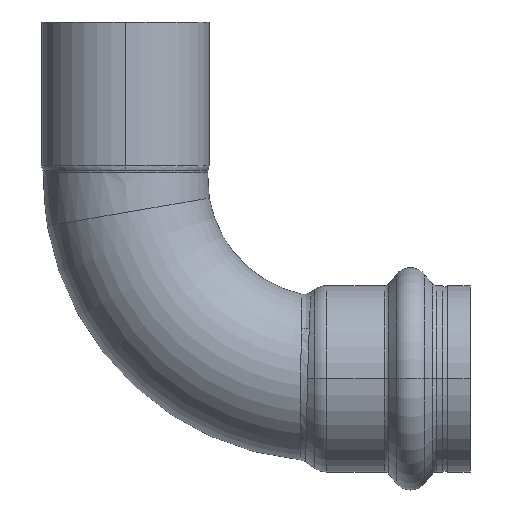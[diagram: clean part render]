
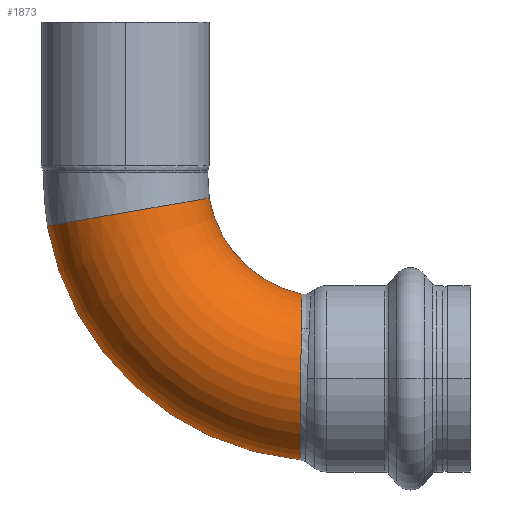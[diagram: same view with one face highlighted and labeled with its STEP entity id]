
A CAD part, top view. The second image highlights one B-rep face of the part: STEP entity #1873.
In plain terms, the highlighted toroidal (fillet/blend) face has major radius 33.6 mm and minor radius 13.75 mm.
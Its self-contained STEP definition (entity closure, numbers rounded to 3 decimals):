
#4 = CARTESIAN_POINT ( 'NONE',  ( 29.282, -6.297, 12.105 ) ) ;
#18 = CARTESIAN_POINT ( 'NONE',  ( 29.378, 3.799, 13.311 ) ) ;
#137 = ORIENTED_EDGE ( 'NONE', *, *, #1264, .F. ) ;
#292 = CARTESIAN_POINT ( 'NONE',  ( 29.241, -11.181, 7.723 ) ) ;
#304 = CARTESIAN_POINT ( 'NONE',  ( 29.305, -3.699, 13.232 ) ) ;
#321 = CARTESIAN_POINT ( 'NONE',  ( 29.396, 5.584, 12.715 ) ) ;
#357 = B_SPLINE_CURVE_WITH_KNOTS ( 'NONE', 3,
 ( #598, #2473, #883, #3077, #1191, #3311, #1489, #3550, #1781, #3800, #2144, #292, #2485, #613, #2823, #894, #3086, #1205, #3318, #1497, #3563, #1795, #4, #2160, #304, #2501, #622, #2836, #906, #3095, #1215, #3327, #1507, #3570, #1808, #18, #2170, #321, #2516, #633, #2845, #917, #3106, #1223 ),
 .UNSPECIFIED., .F., .F.,
 ( 4, 2, 2, 2, 2, 2, 2, 2, 2, 2, 2, 2, 2, 2, 2, 2, 2, 2, 2, 2, 2, 4 ),
 ( 0.01, 0.012, 0.014, 0.015, 0.015, 0.017, 0.019, 0.02, 0.021, 0.023, 0.024, 0.025, 0.029, 0.03, 0.031, 0.033, 0.034, 0.035, 0.036, 0.038, 0.039, 0.04 ),
 .UNSPECIFIED. ) ;
#432 = CARTESIAN_POINT ( 'NONE',  ( 33.6, 33.6, 0. ) ) ;
#491 = DIRECTION ( 'NONE',  ( -1., 0., 0. ) ) ;
#589 = ORIENTED_EDGE ( 'NONE', *, *, #2387, .F. ) ;
#598 = CARTESIAN_POINT ( 'NONE',  ( 29.223, -13.547, 0. ) ) ;
#610 = CARTESIAN_POINT ( 'NONE',  ( 29.425, 8.344, 11.182 ) ) ;
#613 = CARTESIAN_POINT ( 'NONE',  ( 29.249, -10.214, 8.966 ) ) ;
#622 = CARTESIAN_POINT ( 'NONE',  ( 29.323, -1.833, 13.594 ) ) ;
#633 = CARTESIAN_POINT ( 'NONE',  ( 29.411, 7.003, 12.025 ) ) ;
#724 = B_SPLINE_CURVE_WITH_KNOTS ( 'NONE', 3,
 ( #2339, #2270, #2483, #2556, #2564, #2572, #2582, #2621, #2659, #2752, #2885, #2891, #2896, #2910, #2932, #2940, #2992, #3023 ),
 .UNSPECIFIED., .F., .F.,
 ( 4, 2, 2, 2, 2, 2, 2, 2, 4 ),
 ( 0.04, 0.042, 0.044, 0.045, 0.046, 0.047, 0.05, 0.052, 0.053 ),
 .UNSPECIFIED. ) ;
#883 = CARTESIAN_POINT ( 'NONE',  ( 29.223, -13.503, 1.269 ) ) ;
#894 = CARTESIAN_POINT ( 'NONE',  ( 29.254, -9.567, 9.665 ) ) ;
#906 = CARTESIAN_POINT ( 'NONE',  ( 29.332, -0.892, 13.705 ) ) ;
#917 = CARTESIAN_POINT ( 'NONE',  ( 29.419, 7.822, 11.538 ) ) ;
#1092 = CIRCLE ( 'NONE', #2979, 19.85 ) ;
#1191 = CARTESIAN_POINT ( 'NONE',  ( 29.225, -13.2, 3.131 ) ) ;
#1205 = CARTESIAN_POINT ( 'NONE',  ( 29.262, -8.647, 10.526 ) ) ;
#1215 = CARTESIAN_POINT ( 'NONE',  ( 29.347, 0.677, 13.758 ) ) ;
#1223 = CARTESIAN_POINT ( 'NONE',  ( 29.425, 8.344, 11.182 ) ) ;
#1264 = EDGE_CURVE ( 'NONE', #1640, #2202, #3366, .T. ) ;
#1313 = CARTESIAN_POINT ( 'NONE',  ( 0.485, 27.911, 0. ) ) ;
#1418 = VERTEX_POINT ( 'NONE', #3694 ) ;
#1474 = CIRCLE ( 'NONE', #3511, 47.35 ) ;
#1489 = CARTESIAN_POINT ( 'NONE',  ( 29.228, -12.847, 4.337 ) ) ;
#1497 = CARTESIAN_POINT ( 'NONE',  ( 29.273, -7.384, 11.455 ) ) ;
#1507 = CARTESIAN_POINT ( 'NONE',  ( 29.359, 1.93, 13.655 ) ) ;
#1566 = DIRECTION ( 'NONE',  ( 0., 0., -1. ) ) ;
#1603 = DIRECTION ( 'NONE',  ( -0.986, -0.169, 0. ) ) ;
#1631 = VERTEX_POINT ( 'NONE', #610 ) ;
#1640 = VERTEX_POINT ( 'NONE', #3085 ) ;
#1645 = CARTESIAN_POINT ( 'NONE',  ( 29.48, 14.182, 0. ) ) ;
#1781 = CARTESIAN_POINT ( 'NONE',  ( 29.231, -12.515, 5.226 ) ) ;
#1795 = CARTESIAN_POINT ( 'NONE',  ( 29.28, -6.576, 11.951 ) ) ;
#1808 = CARTESIAN_POINT ( 'NONE',  ( 29.369, 2.871, 13.509 ) ) ;
#1869 = AXIS2_PLACEMENT_3D ( 'NONE', #1313, #3410, #1603 ) ;
#1873 = ADVANCED_FACE ( 'NONE', ( #3401 ), #1909, .T. ) ;
#1909 = TOROIDAL_SURFACE ( 'NONE', #3404, 33.6, 13.75 ) ;
#1938 = EDGE_CURVE ( 'NONE', #1631, #2494, #724, .T. ) ;
#2144 = CARTESIAN_POINT ( 'NONE',  ( 29.236, -11.839, 6.655 ) ) ;
#2160 = CARTESIAN_POINT ( 'NONE',  ( 29.294, -4.885, 12.822 ) ) ;
#2167 = CARTESIAN_POINT ( 'NONE',  ( 33.6, 33.6, 0. ) ) ;
#2170 = CARTESIAN_POINT ( 'NONE',  ( 29.384, 4.404, 13.139 ) ) ;
#2199 = DIRECTION ( 'NONE',  ( 0., 0., -1. ) ) ;
#2202 = VERTEX_POINT ( 'NONE', #2213 ) ;
#2209 = ORIENTED_EDGE ( 'NONE', *, *, #3073, .T. ) ;
#2213 = CARTESIAN_POINT ( 'NONE',  ( 14.037, 30.239, 0. ) ) ;
#2251 = DIRECTION ( 'NONE',  ( -1., 0., 0. ) ) ;
#2270 = CARTESIAN_POINT ( 'NONE',  ( 29.429, 8.791, 10.866 ) ) ;
#2339 = CARTESIAN_POINT ( 'NONE',  ( 29.425, 8.344, 11.182 ) ) ;
#2387 = EDGE_CURVE ( 'NONE', #1418, #1640, #1474, .T. ) ;
#2417 = DIRECTION ( 'NONE',  ( 0., 0., -1. ) ) ;
#2473 = CARTESIAN_POINT ( 'NONE',  ( 29.223, -13.547, 0.631 ) ) ;
#2483 = CARTESIAN_POINT ( 'NONE',  ( 29.434, 9.22, 10.524 ) ) ;
#2485 = CARTESIAN_POINT ( 'NONE',  ( 29.244, -10.816, 8.235 ) ) ;
#2494 = VERTEX_POINT ( 'NONE', #1645 ) ;
#2501 = CARTESIAN_POINT ( 'NONE',  ( 29.32, -2.148, 13.542 ) ) ;
#2516 = CARTESIAN_POINT ( 'NONE',  ( 29.402, 6.16, 12.463 ) ) ;
#2556 = CARTESIAN_POINT ( 'NONE',  ( 29.442, 10.038, 9.786 ) ) ;
#2564 = CARTESIAN_POINT ( 'NONE',  ( 29.446, 10.422, 9.397 ) ) ;
#2572 = CARTESIAN_POINT ( 'NONE',  ( 29.453, 11.139, 8.579 ) ) ;
#2582 = CARTESIAN_POINT ( 'NONE',  ( 29.456, 11.473, 8.15 ) ) ;
#2621 = CARTESIAN_POINT ( 'NONE',  ( 29.46, 11.935, 7.476 ) ) ;
#2659 = CARTESIAN_POINT ( 'NONE',  ( 29.462, 12.083, 7.246 ) ) ;
#2707 = ORIENTED_EDGE ( 'NONE', *, *, #2980, .T. ) ;
#2752 = CARTESIAN_POINT ( 'NONE',  ( 29.464, 12.367, 6.776 ) ) ;
#2823 = CARTESIAN_POINT ( 'NONE',  ( 29.251, -10.003, 9.205 ) ) ;
#2836 = CARTESIAN_POINT ( 'NONE',  ( 29.329, -1.206, 13.675 ) ) ;
#2845 = CARTESIAN_POINT ( 'NONE',  ( 29.414, 7.281, 11.868 ) ) ;
#2885 = CARTESIAN_POINT ( 'NONE',  ( 29.466, 12.502, 6.535 ) ) ;
#2891 = CARTESIAN_POINT ( 'NONE',  ( 29.471, 13.138, 5.321 ) ) ;
#2896 = CARTESIAN_POINT ( 'NONE',  ( 29.474, 13.523, 4.305 ) ) ;
#2910 = CARTESIAN_POINT ( 'NONE',  ( 29.478, 13.917, 2.717 ) ) ;
#2932 = CARTESIAN_POINT ( 'NONE',  ( 29.478, 14.017, 2.172 ) ) ;
#2940 = CARTESIAN_POINT ( 'NONE',  ( 29.479, 14.15, 1.086 ) ) ;
#2979 = AXIS2_PLACEMENT_3D ( 'NONE', #3376, #1566, #3621 ) ;
#2980 = EDGE_CURVE ( 'NONE', #1418, #1631, #357, .T. ) ;
#2992 = CARTESIAN_POINT ( 'NONE',  ( 29.48, 14.182, 0.543 ) ) ;
#3023 = CARTESIAN_POINT ( 'NONE',  ( 29.48, 14.182, 0. ) ) ;
#3073 = EDGE_CURVE ( 'NONE', #2494, #2202, #1092, .T. ) ;
#3077 = CARTESIAN_POINT ( 'NONE',  ( 29.224, -13.329, 2.517 ) ) ;
#3085 = CARTESIAN_POINT ( 'NONE',  ( -13.066, 25.582, 0. ) ) ;
#3086 = CARTESIAN_POINT ( 'NONE',  ( 29.256, -9.342, 9.887 ) ) ;
#3095 = CARTESIAN_POINT ( 'NONE',  ( 29.341, 0.049, 13.762 ) ) ;
#3106 = CARTESIAN_POINT ( 'NONE',  ( 29.422, 8.086, 11.365 ) ) ;
#3311 = CARTESIAN_POINT ( 'NONE',  ( 29.227, -12.943, 4.037 ) ) ;
#3318 = CARTESIAN_POINT ( 'NONE',  ( 29.266, -8.158, 10.918 ) ) ;
#3327 = CARTESIAN_POINT ( 'NONE',  ( 29.356, 1.617, 13.688 ) ) ;
#3331 = EDGE_LOOP ( 'NONE', ( #589, #2707, #3537, #2209, #137 ) ) ;
#3366 = CIRCLE ( 'NONE', #1869, 13.75 ) ;
#3376 = CARTESIAN_POINT ( 'NONE',  ( 33.6, 33.6, 0. ) ) ;
#3401 = FACE_OUTER_BOUND ( 'NONE', #3331, .T. ) ;
#3404 = AXIS2_PLACEMENT_3D ( 'NONE', #2167, #2199, #2251 ) ;
#3410 = DIRECTION ( 'NONE',  ( -0.169, 0.986, 0. ) ) ;
#3511 = AXIS2_PLACEMENT_3D ( 'NONE', #432, #2417, #491 ) ;
#3537 = ORIENTED_EDGE ( 'NONE', *, *, #1938, .T. ) ;
#3550 = CARTESIAN_POINT ( 'NONE',  ( 29.23, -12.633, 4.931 ) ) ;
#3563 = CARTESIAN_POINT ( 'NONE',  ( 29.275, -7.119, 11.626 ) ) ;
#3570 = CARTESIAN_POINT ( 'NONE',  ( 29.366, 2.557, 13.565 ) ) ;
#3621 = DIRECTION ( 'NONE',  ( -1., 0., 0. ) ) ;
#3694 = CARTESIAN_POINT ( 'NONE',  ( 29.223, -13.547, 0. ) ) ;
#3800 = CARTESIAN_POINT ( 'NONE',  ( 29.234, -12.132, 6.098 ) ) ;
